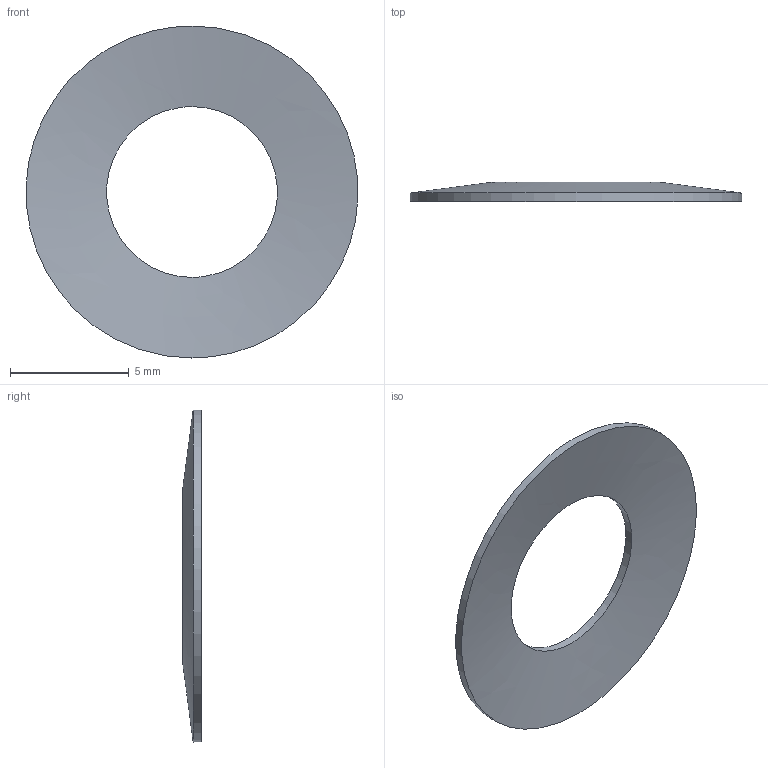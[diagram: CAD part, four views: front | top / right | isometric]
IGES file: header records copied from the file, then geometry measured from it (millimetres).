
Global section: file name: ST.0140.0072.0035; native system: Autodesk Inventor 2026; preprocessor: unknown; author: J. Iwanek; date: 20260918.102556; units: millimetre
Bounding box: 13.99 x 0.8 x 14 mm (x, y, z)
Volume: 40 mm3; surface area: 252 mm2
Topology: 1 solids, 1 shells, 4 faces, 12 edges, 8 vertices
Faces by surface type: bspline 4
